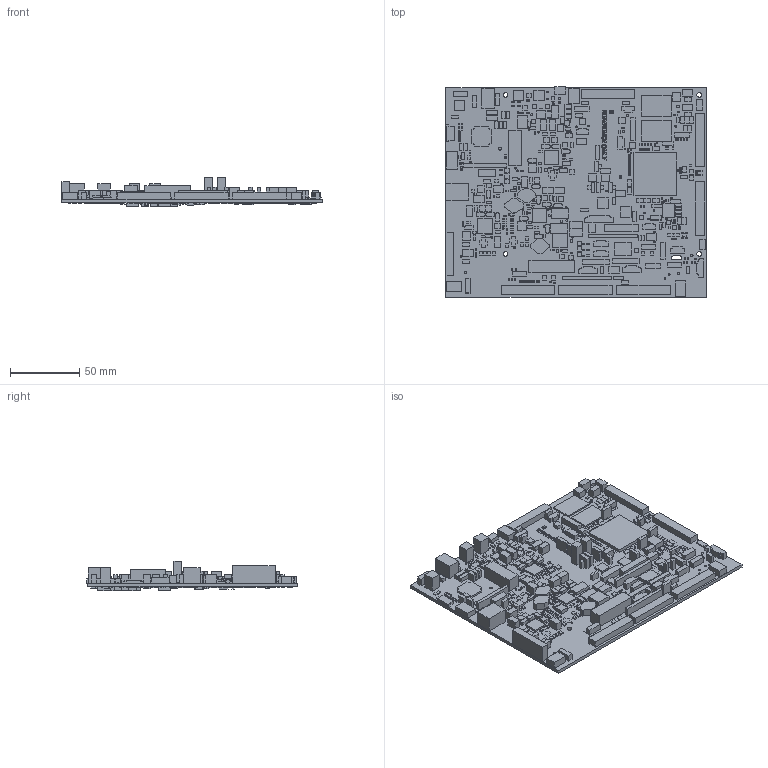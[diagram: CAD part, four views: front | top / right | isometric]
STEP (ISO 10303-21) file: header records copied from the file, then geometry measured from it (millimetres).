
FILE_DESCRIPTION (( 'STEP AP214' ), '1' );
FILE_NAME ('dlp055c_mech.STEP', '2022-05-04T17:40:31', ( '' ), ( '' ), 'SwSTEP 2.0', 'SolidWorks 2021', '' );
FILE_SCHEMA (( 'AUTOMOTIVE_DESIGN' ));
Length unit declared in the file: millimetre
Products named in the file (227): INDSRR1005_BOURNS_L_INDSRR1005_BOURNS_SRR1005100M; 0402_1MM_PAS,CAP,NP_0402_1UF_0402_1MM; 0402_PAS,R,LARGE_0402_31.6K_0402_1MM; 0603_PAS,CAP,NP_0603_10UF_; MOLEX_0475901001_EM,CONN,USB,TYPEAB_MOLEX_0475901001_USB,TYPE AB,MICRO,TOP MNT_; IND274404063330_WURTH_L_IND274404063330_WURTH_33 UH; 1210_PAS,R,LARGE_1210_10_; 0603_C_0603_0.001 UF; HDR1X12_EM,HDR,12P,1R,1X_HDR1X12_HDR,12P,1R_; 1210_PAS,CAP,NP_1210_100UF_; 0402_PAS,CAP,NP_0402_1UF_0402_1MM; INDSRN4018_BOURNS_L_INDSRN4018_BOURNS_47 UH; 0402_CER 0.1UF 16V 10% X5R 0402_0402_220NF_0402_1MM; 0201_PAS,R,LARGE_0201_24K_; 0603_PAS,R,LARGE_0603_4.02K_; dlp055c_mech; HDR7X25103308_TYCO_EM,HDR,14P,2R,1X,NARROW_HDR7X25103308_TYCO_HDR,14P,2R,SHROUDED_; 0805_C_0805_22 UF; U_5_DCK_TMP_22_U_5_DCK_SN74AUP1G06DCK_; 1210_C_1210_10 UF; TP30RD12_TESTPOINT_TP30RD12_TESTPOINT_VIA; 0402_PAS,R,LARGE_0402_10K; QF48_PPADA_PMD1000_3_QF48_PPADA_(MOTOR DRIVE); 0402_PAS,R,LARGE_0402_33.2_0402_1MM; 0805_PAS,CAP,NP_0805_10UF_; POT3314G_POT_R_S_POT3314G_20K; 0402_1MM_PAS,R,LARGE_0402_1M_0402_1MM; 0402_PAS,R,LARGE_0402_4.99K_0402_1MM; DPAKA_NTD14NO3RT4_1_DPAKA_NTD14N03RT4G; 0603_R_0603_10 K; FIR51HF_VF_DUAL_EM,CONN,51P,FIRE51S,VF AND HF_FIR51HF_VF_DUAL_FIRE51SHFR1500_; 1206_C_1206_47 UF; U_5_DCK_TMP_26_U_5_DCK_SN74AUP1G06DCK_; 0402_1MM_PAS,INDUCTOR_0402_BLM15PX121SN1D_0402_1MM; 0402_PAS,R,LARGE_0402_22K_0402_1MM; SOIC48DGG_TI_LOG,BUF,74X16244_SOIC48DGG_TI_74LVTH16244_; LEDLTSTC190_LITEON_PAS,DIODE,LED,ALT_LEDLTSTC190_LITEON_GREEN_; SOIC5SOT23_DBVTI_TMP_30_SOIC5SOT23_DBVTI_SN74LVC1G07DBVR_; TP48RD28_EM,TERM,TESTPOINT_TP48RD28_TESTPOINT_TP48RD28; 0402_CER 0.1UF 16V 10% X5R 0402_0402_470NF_0402_1MM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
Assembly tree (1062 placements, depth 2):
  dlp055c_mech
    dlp055c_mech
    SOT323_DIODESINC_NFET_SOT323_DIODESINC_NCHANNEL MOSFET
    CONN9190009A_NORCOMP_REV_EM,CONN,DB9,ALT_CONN9190009A_NORCOMP_REV_RS232_
    FID30_DEVICE  x6
    HDR2X3ARA_EM,HDR,6P,2R,1X_HDR2X3ARA_HDR,6P,2R,RA_  x3
    ACD_ASSY_SM_DEVICE
    TP60RD40_BF,HOLE,PLATED,TESTPIN_TP60RD40_TP,40MIL DRILL,60MIL PAD_
    TP48RD28_EM,TERM,TESTPOINT_TP48RD28_TESTPOINT_TP48RD28  x2
    LED1206_PAS,DIODE,LED,ALT_LED1206_GREEN_
    0805WIDEKRL2012E_SUSUMU_R_0805WIDEKRL2012E_SUSUMU_0.01  x9
    INDSRN6045TA_BOURNS_L_INDSRN6045TA_BOURNS_3.3 UH
    INDSRN4018_BOURNS_L_INDSRN4018_BOURNS_47 UH  x9
    IND274404063330_WURTH_L_IND274404063330_WURTH_33 UH  x3
    INDSRR1005_BOURNS_L_INDSRR1005_BOURNS_SRR1005150M
    INDSRR1005_BOURNS_L_INDSRR1005_BOURNS_SRR1005100M  x2
    INDCDRH104R_SUMIDA_L_INDCDRH104R_SUMIDA_4.7 UH
    HDR1X3_2MM_EM,JMP,3P,1R,1X,ALT_HDR1X3_2MM_HDR,3P,1R_
    SOT23_ONSEMI_PAS,DIODE,ZENOR,SOT23,AP1,CP3_SOT23_ONSEMI_BZX84C8V2LT1G  x2
    POT3314G_POT_R_S_POT3314G_20K  x3
    SOT23AVX_NFET_SOT23AVX_NCHANNEL MOSFET  x3
    CONN452808_MOLEX_CON4_0_CONN452808_MOLEX_CON4  x3
    SW5_GT12MSCBE_SW SPST_1_SW5_GT12MSCBE_GT12MSCBE_SW5_GT12MSCBE
    CONN4USB8974300490_MILL_EM,CONN,USB,TYPEB_CONN4USB8974300490_MILL_USB,TYPEB_
    SOIC8Q5_TI_CSD17579_SOIC8Q5_TI_CSD17579
    SOIC8DGK_TI_LM3881_SOIC8DGK_TI_LM3881  x2
    HDR2X5_EM,JMP,10P,2R,1X_HDR2X5_HDR,10P,2R_
    CONN1253398_MOLEX_EM,HDR,12P,1R_CONN1253398_MOLEX_533981271_
    HDR1X12_EM,HDR,12P,1R,1X_HDR1X12_HDR,12P,1R_
    SOIC16PW_TI_INF,DRVR,RS232,MAX3232E_SOIC16PW_TI_MAX3232CPWR_
    CONN22B22BPHD_JST_EM,HDR,22P,2R_CONN22B22BPHD_JST_B22BPHDSS(LF)(SN)_
    SOIC24PW_TI_LOG,BUF,74X827A_SOIC24PW_TI_SN74LVC827APWR_  x2
    HDR1X12B12BZR_JST_EM,HDR,12P,1R,1X,B12BEH_HDR1X12B12BZR_JST_B12BZR(LF)(SN)_  x2
    HDR1X7B7BZR_JST_EM,HDR,7P,1R,1X,B7BEH_HDR1X7B7BZR_JST_B7BZR_
    HDR1X3_EM,JMP,3P,1R,1X,ALT_HDR1X3_HDR,3P,1R_  x9
    HDR1X4B4BZR_JST_EM,HDR,4P,1R,1X,B4BEH_HDR1X4B4BZR_JST_B4BZR_  x2
    HDR1X4_EM,HDR,4P,1R,1X,NARROW_HDR1X4_HDR,4P,1R_
    IR3TSOP34_VIS_ANA,LIGHTSENSOR,IR_RECVR_IR3TSOP34_VIS_TSOP34838_  x2
    HDR10X25103308_TYCO_EM,HDR,20P,2R,NARROW_SYM_HDR10X25103308_TYCO_HDR,20P,2R,SHROUDED_
    SIT1602BC132520_CTS_SITIME_ANA,OSC,4P,1X,SMALL_SIT1602BC132520_CTS_SITIME_38MHZ_
    SOIC8PW_TI_OPAMP_DUAL_SOIC8PW_TI_LM393  x3
    SOIC8PW_TI_INF,CLK DRVR,CDCLVC1102_SOIC8PW_TI_CDCLVC1102PW_
    SOIC56TSOP_SPANSION_MEM,FLASH,256MB,X16,TSOP56_SOIC56TSOP_SPANSION_MT28EW128ABA1HJS0SIT  x2
    SOT23_ANA,TRANSISTOR,2N2222A,SOT23_SOT23_MMBT2222A_
    QFN325X5A_CYP_INF,USB2SERIAL,CY7C65215,1X_QFN325X5A_CYP_CY7C65215A32LTXI_
    SOIC8DDAA_TI_TPS54327_0_SOIC8DDAA_TI_TPS54327
    SOIC8D_TI_MEM,EEPROM,24LCXX_SOIC8D_TI_M24C64WMN6TP_
    SOIC10DRC_TI_TPS259260_SOIC10DRC_TI_TPS259260DRCR
    SOIC10DRC_TI_TPS259240_0_SOIC10DRC_TI_TPS259241
    SOIC48DGG_TI_LOG,BUF,74X16244_SOIC48DGG_TI_74LVTH16244_
    OSC4KC2520B_KYO_ANA,OSC,4P,1X,SMALL_OSC4KC2520B_KYO_40MHZ_
    PQFP80PN_TI_PROC,MICCNTL,1X,MSP430F5529IPN_PQFP80PN_TI_MSP430F5529IPN_
    SOIC6DRY_TI_PAS,DIODE,TVS,TPD2E001DRY,1X_SOIC6DRY_TI_TPD2E001DRY_
    TP30RD12_TESTPOINT_TP30RD12_TESTPOINT_VIA  x35
    SOT233_DIOMOD_ANA,MOSFET,NCH,E,2N7002,SOT23_SOT233_DIOMOD_ZVN4106FTA
    SOT223A_ANA,MOSFET,PCH,E,SOT223_SOT223A_NDT456P
    DPAKA_NTD14NO3RT4_1_DPAKA_NTD14N03RT4G
    DPAKA_NTD14N03RT4G
    CONN3B3BEH_JST_EM,HDR,3P,1R,1X,B3BEH_CONN3B3BEH_JST_B3BEH_
    HDR1_EM,TERM,TESTPOINT_HDR1_HDR,1P,1R_  x2
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Bounding box: 188.16 x 152.2 x 21.44 mm (x, y, z)
Volume: 121056.8 mm3; surface area: 115509.4 mm2
Topology: 1062 solids, 1062 shells, 7061 faces, 14715 edges, 9810 vertices
Faces by surface type: plane 6718, bspline 244, cylinder 99
Entity records: 95135 total; most frequent: CARTESIAN_POINT 21357, DIRECTION 9421, ORIENTED_EDGE 8718, EDGE_CURVE 4359, LINE 3833, VECTOR 3833, VERTEX_POINT 2906, AXIS2_PLACEMENT_3D 2794
